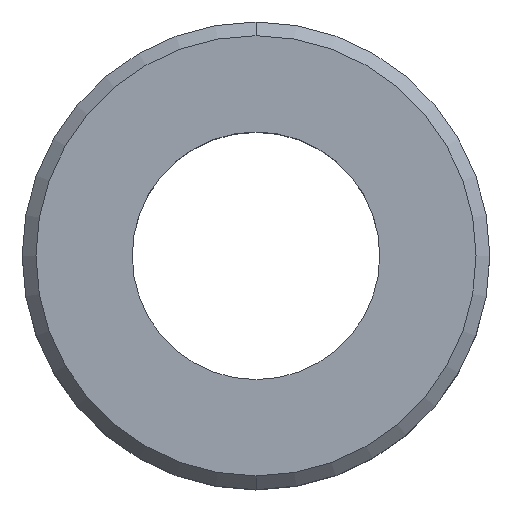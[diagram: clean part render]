
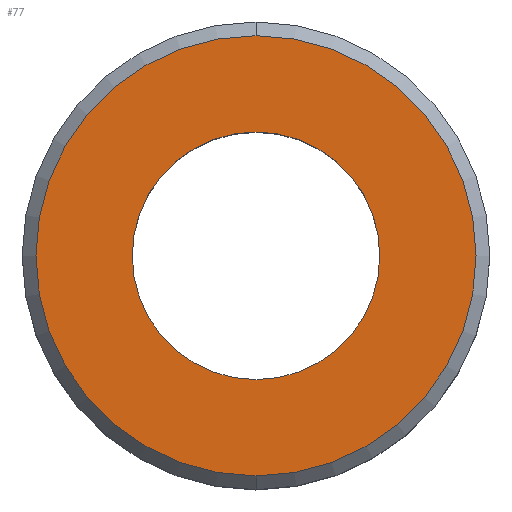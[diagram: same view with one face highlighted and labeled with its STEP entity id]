
A CAD part, top view. The second image highlights one B-rep face of the part: STEP entity #77.
In plain terms, the highlighted planar face has unit normal (0, 0, 1).
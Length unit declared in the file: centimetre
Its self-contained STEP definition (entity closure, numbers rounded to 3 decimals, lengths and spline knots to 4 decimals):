
#7 = ORIENTED_EDGE ( 'NONE', *, *, #8, .F. ) ;
#8 = EDGE_CURVE ( 'NONE', #16, #15, #141, .T. ) ;
#9 = EDGE_LOOP ( 'NONE', ( #10, #59 ) ) ;
#10 = ORIENTED_EDGE ( 'NONE', *, *, #85, .F. ) ;
#14 = EDGE_CURVE ( 'NONE', #15, #16, #136, .T. ) ;
#15 = VERTEX_POINT ( 'NONE', #131 ) ;
#16 = VERTEX_POINT ( 'NONE', #130 ) ;
#59 = ORIENTED_EDGE ( 'NONE', *, *, #96, .F. ) ;
#77 = ADVANCED_FACE ( 'NONE', ( #204, #203 ), #269, .F. ) ;
#78 = EDGE_LOOP ( 'NONE', ( #79, #7 ) ) ;
#79 = ORIENTED_EDGE ( 'NONE', *, *, #14, .F. ) ;
#85 = EDGE_CURVE ( 'NONE', #94, #95, #264, .T. ) ;
#94 = VERTEX_POINT ( 'NONE', #244 ) ;
#95 = VERTEX_POINT ( 'NONE', #243 ) ;
#96 = EDGE_CURVE ( 'NONE', #95, #94, #242, .T. ) ;
#130 = CARTESIAN_POINT ( 'NONE',  ( 0., -0.8, 0.8 ) ) ;
#131 = CARTESIAN_POINT ( 'NONE',  ( 0., 0.8, 0.8 ) ) ;
#132 = DIRECTION ( 'NONE',  ( 0., 1., 0. ) ) ;
#133 = DIRECTION ( 'NONE',  ( 0., 0., -1. ) ) ;
#134 = CARTESIAN_POINT ( 'NONE',  ( 0., 0., 0.8 ) ) ;
#135 = AXIS2_PLACEMENT_3D ( 'NONE', #134, #133, #132 ) ;
#136 = CIRCLE ( 'NONE', #135, 0.8 ) ;
#137 = DIRECTION ( 'NONE',  ( 0., 1., 0. ) ) ;
#138 = DIRECTION ( 'NONE',  ( 0., 0., -1. ) ) ;
#139 = CARTESIAN_POINT ( 'NONE',  ( 0., 0., 0.8 ) ) ;
#140 = AXIS2_PLACEMENT_3D ( 'NONE', #139, #138, #137 ) ;
#141 = CIRCLE ( 'NONE', #140, 0.8 ) ;
#203 = FACE_BOUND ( 'NONE', #9, .T. ) ;
#204 = FACE_OUTER_BOUND ( 'NONE', #78, .T. ) ;
#238 = DIRECTION ( 'NONE',  ( 1., 0., 0. ) ) ;
#239 = DIRECTION ( 'NONE',  ( 0., 0., 1. ) ) ;
#240 = CARTESIAN_POINT ( 'NONE',  ( 0., 0., 0.8 ) ) ;
#241 = AXIS2_PLACEMENT_3D ( 'NONE', #240, #239, #238 ) ;
#242 = CIRCLE ( 'NONE', #241, 0.45 ) ;
#243 = CARTESIAN_POINT ( 'NONE',  ( -0.45, 0., 0.8 ) ) ;
#244 = CARTESIAN_POINT ( 'NONE',  ( 0.45, 0., 0.8 ) ) ;
#260 = DIRECTION ( 'NONE',  ( 1., 0., 0. ) ) ;
#261 = DIRECTION ( 'NONE',  ( 0., 0., 1. ) ) ;
#262 = CARTESIAN_POINT ( 'NONE',  ( 0., 0., 0.8 ) ) ;
#263 = AXIS2_PLACEMENT_3D ( 'NONE', #262, #261, #260 ) ;
#264 = CIRCLE ( 'NONE', #263, 0.45 ) ;
#265 = DIRECTION ( 'NONE',  ( -1., 0., 0. ) ) ;
#266 = DIRECTION ( 'NONE',  ( 0., 0., -1. ) ) ;
#267 = CARTESIAN_POINT ( 'NONE',  ( 0., 0., 0.8 ) ) ;
#268 = AXIS2_PLACEMENT_3D ( 'NONE', #267, #266, #265 ) ;
#269 = PLANE ( 'NONE',  #268 ) ;
